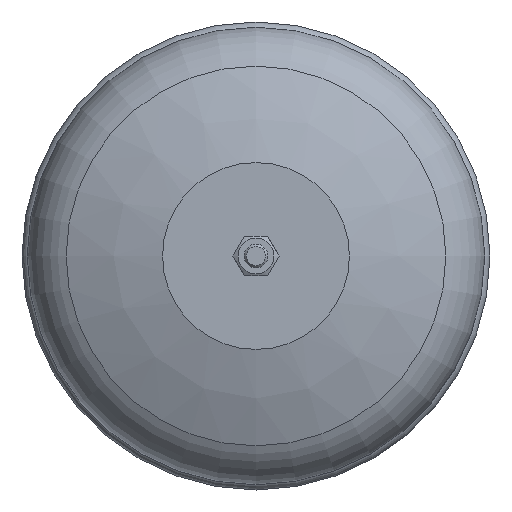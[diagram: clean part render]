
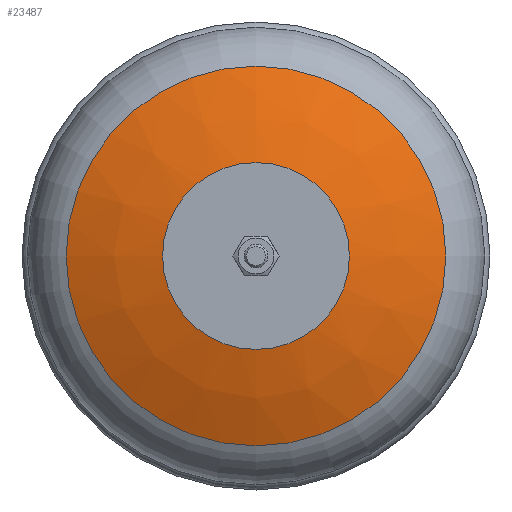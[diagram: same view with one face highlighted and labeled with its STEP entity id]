
A CAD part, front view. The second image highlights one B-rep face of the part: STEP entity #23487.
In plain terms, the highlighted free-form (B-spline) face has degree [2, 2] with [3, 9] control points.
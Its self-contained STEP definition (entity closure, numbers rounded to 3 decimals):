
#22=(
BOUNDED_CURVE()
B_SPLINE_CURVE(2,(#50328,#50329,#50330),.UNSPECIFIED.,.F.,.F.)
B_SPLINE_CURVE_WITH_KNOTS((3,3),(-1.369,-1.15),
 .UNSPECIFIED.)
CURVE()
GEOMETRIC_REPRESENTATION_ITEM()
RATIONAL_B_SPLINE_CURVE((1.,0.994,1.))
REPRESENTATION_ITEM('')
);
#35=(
BOUNDED_SURFACE()
B_SPLINE_SURFACE(2,2,((#50300,#50301,#50302,#50303,#50304,#50305,#50306,
#50307,#50308),(#50309,#50310,#50311,#50312,#50313,#50314,#50315,#50316,
#50317),(#50318,#50319,#50320,#50321,#50322,#50323,#50324,#50325,#50326)),
 .UNSPECIFIED.,.F.,.T.,.F.)
B_SPLINE_SURFACE_WITH_KNOTS((3,3),(3,2,2,2,3),(1.15,1.369),
(-3.142,-1.571,0.,1.571,3.142),
 .UNSPECIFIED.)
GEOMETRIC_REPRESENTATION_ITEM()
RATIONAL_B_SPLINE_SURFACE(((1.,0.707,1.,0.707,1.,
0.707,1.,0.707,1.),(0.994,0.703,
0.994,0.703,0.994,0.703,0.994,
0.703,0.994),(1.,0.707,1.,0.707,
1.,0.707,1.,0.707,1.)))
REPRESENTATION_ITEM('')
SURFACE()
);
#6480=FACE_OUTER_BOUND('',#7895,.T.);
#7895=EDGE_LOOP('',(#22046,#22047,#22048,#22049,#22050,#22051));
#8422=CIRCLE('',#25219,39.829);
#8423=CIRCLE('',#25220,39.829);
#8424=CIRCLE('',#25221,80.933);
#8425=CIRCLE('',#25222,80.933);
#11671=VERTEX_POINT('',#50296);
#11672=VERTEX_POINT('',#50297);
#11673=VERTEX_POINT('',#50327);
#11674=VERTEX_POINT('',#50331);
#15157=EDGE_CURVE('',#11671,#11672,#8422,.T.);
#15158=EDGE_CURVE('',#11672,#11671,#8423,.T.);
#15159=EDGE_CURVE('',#11672,#11673,#22,.T.);
#15160=EDGE_CURVE('',#11673,#11674,#8424,.T.);
#15161=EDGE_CURVE('',#11674,#11673,#8425,.T.);
#22046=ORIENTED_EDGE('',*,*,#15157,.F.);
#22047=ORIENTED_EDGE('',*,*,#15158,.F.);
#22048=ORIENTED_EDGE('',*,*,#15159,.T.);
#22049=ORIENTED_EDGE('',*,*,#15160,.T.);
#22050=ORIENTED_EDGE('',*,*,#15161,.T.);
#22051=ORIENTED_EDGE('',*,*,#15159,.F.);
#23487=ADVANCED_FACE('',(#6480),#35,.F.);
#25219=AXIS2_PLACEMENT_3D('',#50298,#30310,#30311);
#25220=AXIS2_PLACEMENT_3D('',#50299,#30312,#30313);
#25221=AXIS2_PLACEMENT_3D('',#50332,#30314,#30315);
#25222=AXIS2_PLACEMENT_3D('',#50333,#30316,#30317);
#30310=DIRECTION('center_axis',(0.,-1.,0.));
#30311=DIRECTION('ref_axis',(1.,0.,0.));
#30312=DIRECTION('center_axis',(0.,-1.,0.));
#30313=DIRECTION('ref_axis',(1.,0.,0.));
#30314=DIRECTION('center_axis',(0.,-1.,0.));
#30315=DIRECTION('ref_axis',(1.,0.,0.));
#30316=DIRECTION('center_axis',(0.,-1.,0.));
#30317=DIRECTION('ref_axis',(1.,0.,0.));
#50296=CARTESIAN_POINT('',(39.829,0.021,0.));
#50297=CARTESIAN_POINT('',(0.,0.021,39.829));
#50298=CARTESIAN_POINT('Origin',(0.,0.021,0.));
#50299=CARTESIAN_POINT('Origin',(0.,0.021,0.));
#50300=CARTESIAN_POINT('Ctrl Pts',(0.,13.249,80.933));
#50301=CARTESIAN_POINT('Ctrl Pts',(-80.933,13.249,80.933));
#50302=CARTESIAN_POINT('Ctrl Pts',(-80.933,13.249,0.));
#50303=CARTESIAN_POINT('Ctrl Pts',(-80.933,13.249,-80.933));
#50304=CARTESIAN_POINT('Ctrl Pts',(0.,13.249,-80.933));
#50305=CARTESIAN_POINT('Ctrl Pts',(80.933,13.249,-80.933));
#50306=CARTESIAN_POINT('Ctrl Pts',(80.933,13.249,0.));
#50307=CARTESIAN_POINT('Ctrl Pts',(80.933,13.249,80.933));
#50308=CARTESIAN_POINT('Ctrl Pts',(0.,13.249,80.933));
#50309=CARTESIAN_POINT('Ctrl Pts',(0.,4.381,61.107));
#50310=CARTESIAN_POINT('Ctrl Pts',(-61.107,4.381,61.107));
#50311=CARTESIAN_POINT('Ctrl Pts',(-61.107,4.381,0.));
#50312=CARTESIAN_POINT('Ctrl Pts',(-61.107,4.381,-61.107));
#50313=CARTESIAN_POINT('Ctrl Pts',(0.,4.381,-61.107));
#50314=CARTESIAN_POINT('Ctrl Pts',(61.107,4.381,-61.107));
#50315=CARTESIAN_POINT('Ctrl Pts',(61.107,4.381,0.));
#50316=CARTESIAN_POINT('Ctrl Pts',(61.107,4.381,61.107));
#50317=CARTESIAN_POINT('Ctrl Pts',(0.,4.381,61.107));
#50318=CARTESIAN_POINT('Ctrl Pts',(0.,0.021,39.829));
#50319=CARTESIAN_POINT('Ctrl Pts',(-39.829,0.021,
39.829));
#50320=CARTESIAN_POINT('Ctrl Pts',(-39.829,0.021,
0.));
#50321=CARTESIAN_POINT('Ctrl Pts',(-39.829,0.021,
-39.829));
#50322=CARTESIAN_POINT('Ctrl Pts',(0.,0.021,-39.829));
#50323=CARTESIAN_POINT('Ctrl Pts',(39.829,0.021,-39.829));
#50324=CARTESIAN_POINT('Ctrl Pts',(39.829,0.021,0.));
#50325=CARTESIAN_POINT('Ctrl Pts',(39.829,0.021,39.829));
#50326=CARTESIAN_POINT('Ctrl Pts',(0.,0.021,39.829));
#50327=CARTESIAN_POINT('',(0.,13.249,80.933));
#50328=CARTESIAN_POINT('Ctrl Pts',(0.,0.021,39.829));
#50329=CARTESIAN_POINT('Ctrl Pts',(0.,4.381,61.107));
#50330=CARTESIAN_POINT('Ctrl Pts',(0.,13.249,80.933));
#50331=CARTESIAN_POINT('',(80.933,13.249,0.));
#50332=CARTESIAN_POINT('Origin',(0.,13.249,0.));
#50333=CARTESIAN_POINT('Origin',(0.,13.249,0.));
